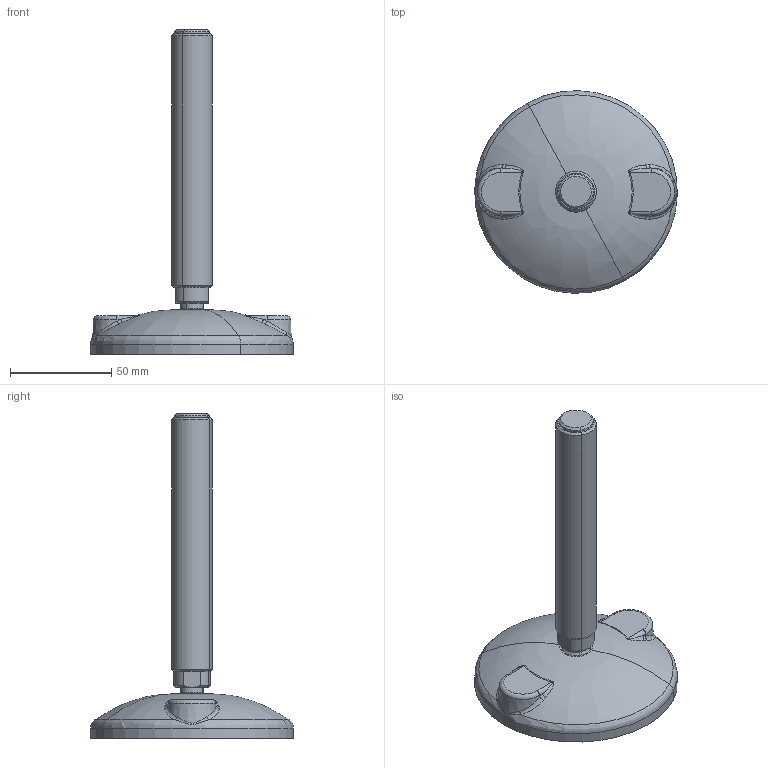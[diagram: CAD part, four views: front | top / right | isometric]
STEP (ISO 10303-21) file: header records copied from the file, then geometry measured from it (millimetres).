
FILE_DESCRIPTION(('CATIA V5 STEP Exchange'),'2;1');
FILE_NAME('X:\CODICI MOVEX\3D per clienti\3D definitivi\Part 900\P95702Z_01.stp','2016-09-15T15:58:40+00:00',('none'),('none'),'Version 5-6 Release 2012','CATIA V5 STEP AP203','none');
FILE_SCHEMA(('CONFIG_CONTROL_DESIGN'));
Length unit declared in the file: millimetre
Products named in the file (1): P95702Z_01
Assembly tree (2 placements, depth 2):
  P95702Z_01
    #58
    #33933
Bounding box: 99.97 x 99.97 x 160 mm (x, y, z)
Volume: 109756.2 mm3; surface area: 55784.6 mm2
Topology: 2 solids, 3 shells, 1074 faces, 3098 edges, 2046 vertices
Faces by surface type: plane 923, torus 48, cylinder 34, revolution 23, sphere 16, cone 16, bspline 14
Entity records: 34619 total; most frequent: CARTESIAN_POINT 10810, ORIENTED_EDGE 6188, EDGE_CURVE 3094, DIRECTION 3007, VERTEX_POINT 2046, VECTOR 1790, LINE 1790, B_SPLINE_CURVE_WITH_KNOTS 1099
